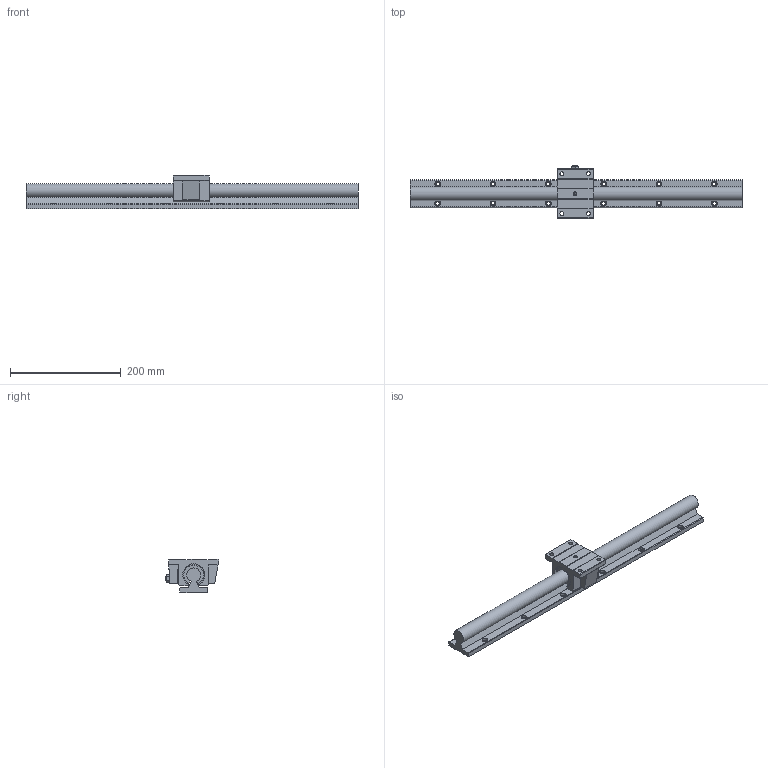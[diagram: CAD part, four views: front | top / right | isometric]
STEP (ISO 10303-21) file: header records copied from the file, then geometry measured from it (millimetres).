
FILE_DESCRIPTION((''),'2;1');
FILE_NAME('D:\製品 (図面)\カタログ用3D\リニアガイド関連\STEP形式\GT(C)\GT(C)25.stp','2010-06-02T15:45:00',('Tsuchiya'),(''),'Autodesk Inventor 10','Autodesk Inventor 10','');
FILE_SCHEMA(('AUTOMOTIVE_DESIGN { 1 0 10303 214 1 1 1 1 }'));
Length unit declared in the file: millimetre
Products named in the file (3): GT(C)25; GT(C)251; GT(C)252
Assembly tree (2 placements, depth 2):
  GT(C)25
    GT(C)251
    GT(C)252
Bounding box: 600 x 96 x 60 mm (x, y, z)
Volume: 819312.5 mm3; surface area: 152067.1 mm2
Topology: 2 solids, 2 shells, 164 faces, 423 edges, 274 vertices
Faces by surface type: plane 82, bspline 40, cylinder 25, cone 15, torus 2
Full cylindrical faces by diameter (mm): 7 x2, 8 x2
Entity records: 5236 total; most frequent: CARTESIAN_POINT 1424, ORIENTED_EDGE 764, DIRECTION 719, EDGE_CURVE 382, VERTEX_POINT 267, AXIS2_PLACEMENT_3D 248, EDGE_LOOP 247, VECTOR 223
